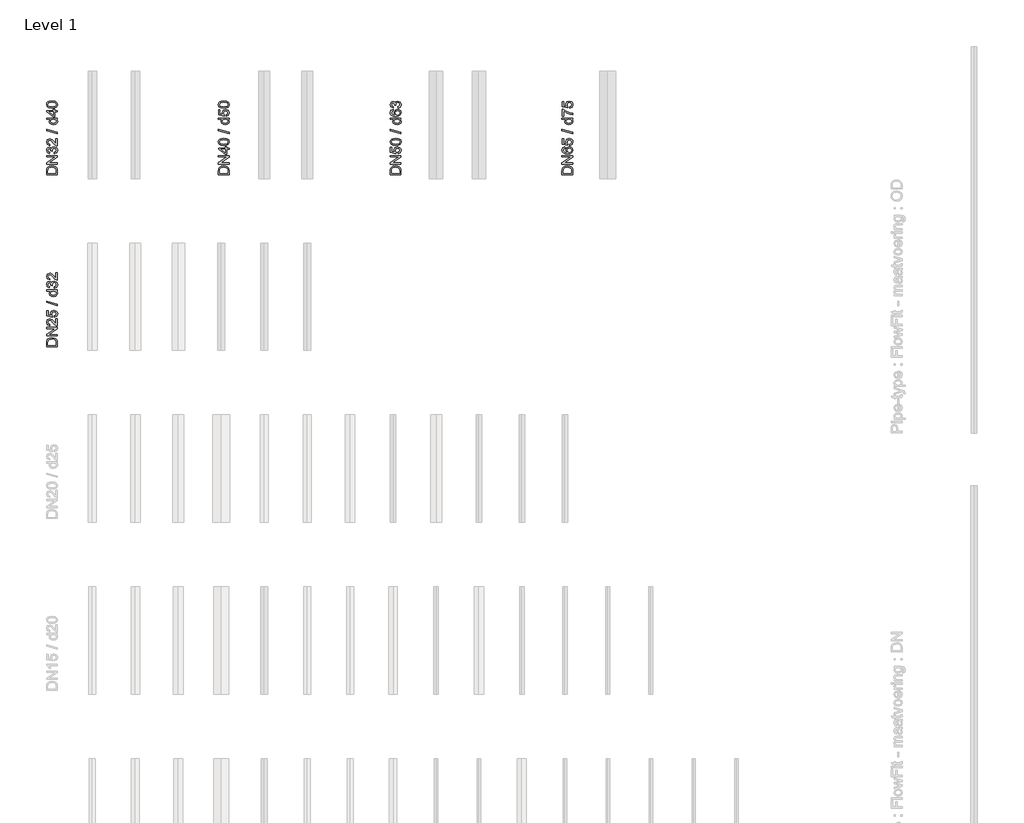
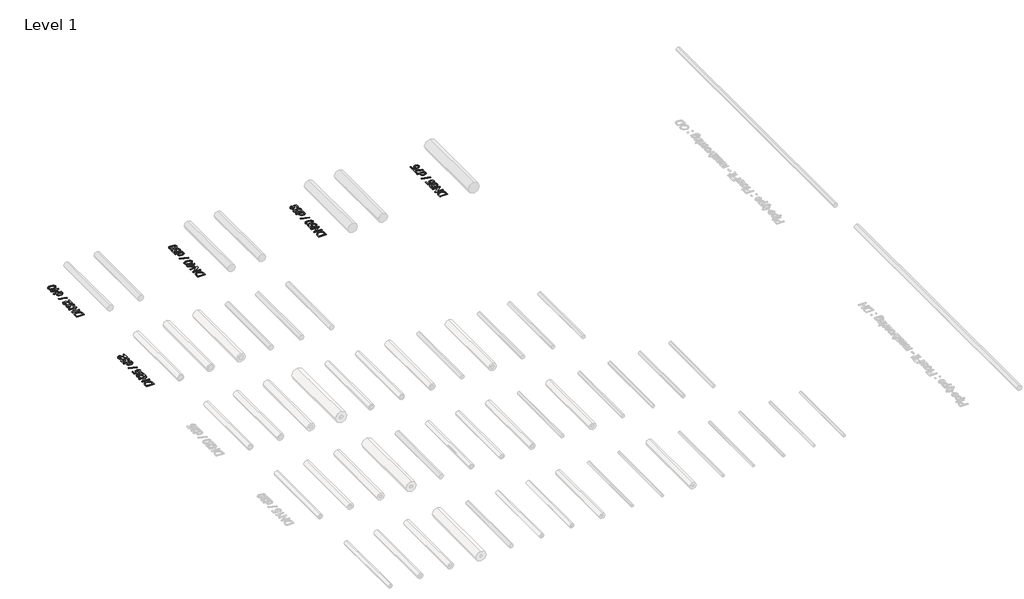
# One storey, part 10 of 11: 5 proxies.
"""IFC4 building model written with IfcOpenShell, lengths in millimetres."""

import ifcopenshell
import ifcopenshell.guid

model = None  # the IFC model being written
_history = None  # IfcOwnerHistory: only IFC2X3 demands one
_inside = {}  # id of a spatial element -> (the spatial element, [elements in it])
_under = {}  # id of a project, library or spatial element -> (it, [spatial elements below it])
_declared = {}  # id of a project -> (the project, [libraries it declares])
_typed = {}  # id of a type object -> (the type object, [elements of that type])
_made_of = {}  # id of a material, layer set ... -> (it, [elements and type objects made of it])


def new_model(schema):
    """Start an empty IFC model of exactly this schema.

    Asked for "IFC4X3", IfcOpenShell would pick the latest addendum, in which some entities
    have other attributes; the version numbers below select the first issue.
    IFC2X3 requires an IfcOwnerHistory on every rooted entity: one is made here for all.
    """
    global model, _history
    if schema == "IFC4X3":
        model = ifcopenshell.file(schema_version=(4, 3, 0, 0))
    else:
        model = ifcopenshell.file(schema=schema)
    _inside.clear()
    _under.clear()
    _declared.clear()
    _typed.clear()
    _made_of.clear()
    _history = None
    if model.schema == "IFC2X3":
        org = make("IfcOrganization", Name="unknown")
        user = make(
            "IfcPersonAndOrganization",
            ThePerson=make("IfcPerson", FamilyName="unknown"),
            TheOrganization=org,
        )
        app = make(
            "IfcApplication",
            ApplicationDeveloper=org,
            Version="unknown",
            ApplicationFullName="unknown",
            ApplicationIdentifier="unknown",
        )
        _history = make(
            "IfcOwnerHistory",
            OwningUser=user,
            OwningApplication=app,
            ChangeAction="ADDED",
            CreationDate=0,
        )
    return model


def make(cls, **values):
    """One entity of the class cls with the attributes given. An attribute that is None is left unset."""
    return model.create_entity(
        cls, **{name: value for name, value in values.items() if value is not None}
    )


def rooted(cls, **values):
    """An entity with a GlobalId (a new one), such as an element, a storey or a relation."""
    return make(cls, GlobalId=ifcopenshell.guid.new(), OwnerHistory=_history, **values)


def si_unit(unit_type, name, prefix=None):
    """IfcSIUnit, for example si_unit("LENGTHUNIT", "METRE", prefix="MILLI")."""
    return make("IfcSIUnit", UnitType=unit_type, Prefix=prefix, Name=name)


def assignment(units):
    """IfcUnitAssignment: the units of a project."""
    return None if units is None else make("IfcUnitAssignment", Units=units)


def point(xyz):
    """IfcCartesianPoint."""
    return None if xyz is None else make("IfcCartesianPoint", Coordinates=xyz)


def direction(xyz):
    """IfcDirection."""
    return None if xyz is None else make("IfcDirection", DirectionRatios=xyz)


def frame(location, z_axis=None, x_axis=None):
    """IfcAxis2Placement3D, a coordinate frame: its origin and axes. An axis left out is left unset."""
    return make(
        "IfcAxis2Placement3D",
        Location=point(location),
        Axis=direction(z_axis),
        RefDirection=direction(x_axis),
    )


def origin():
    """The frame at (0, 0, 0) with its axes left unset."""
    return frame((0.0, 0.0, 0.0))


def origin_with_axes():
    """The frame at (0, 0, 0) with the z axis (0, 0, 1) and the x axis (1, 0, 0) written out."""
    return frame((0.0, 0.0, 0.0), z_axis=(0.0, 0.0, 1.0), x_axis=(1.0, 0.0, 0.0))


def place(relative_to, where):
    """IfcLocalPlacement: puts the frame where relative to a parent placement (None: the world)."""
    return make(
        "IfcLocalPlacement", PlacementRelTo=relative_to, RelativePlacement=where
    )


def context(
    kind, dimensions, precision=None, world=None, true_north=None, identifier=None
):
    """IfcGeometricRepresentationContext, for example the 3D "Model" context."""
    return make(
        "IfcGeometricRepresentationContext",
        ContextIdentifier=identifier,
        ContextType=kind,
        CoordinateSpaceDimension=dimensions,
        Precision=precision,
        WorldCoordinateSystem=world,
        TrueNorth=true_north,
    )


def project(units=None, contexts=None):
    """IfcProject with its units and contexts."""
    return rooted(
        "IfcProject",
        Name="project",
        RepresentationContexts=contexts,
        UnitsInContext=assignment(units),
    )


def spatial(cls, under=None, at=None, **own):
    """A site, building, storey or space (cls), placed at a placement, below another one or the project."""
    s = rooted(cls, ObjectPlacement=at, **own)
    if under is not None:
        _under.setdefault(under.id(), (under, []))[1].append(s)
    return s


def polyline(points):
    """IfcPolyline through the points."""
    return make("IfcPolyline", Points=[point(p) for p in points])


def outline(outer, holes=None, kind="AREA"):
    """IfcArbitraryClosedProfileDef: a profile drawn as a closed curve; with holes, ...WithVoids."""
    if holes is None:
        return make("IfcArbitraryClosedProfileDef", ProfileType=kind, OuterCurve=outer)
    return make(
        "IfcArbitraryProfileDefWithVoids",
        ProfileType=kind,
        OuterCurve=outer,
        InnerCurves=holes,
    )


def extrude(swept, where, along, depth):
    """IfcExtrudedAreaSolid: the profile swept, set in the frame where, extruded along a direction by depth."""
    return make(
        "IfcExtrudedAreaSolid",
        SweptArea=swept,
        Position=where,
        ExtrudedDirection=direction(along),
        Depth=depth,
    )


def shape(context_of_items, identifier, shape_type, items):
    """IfcShapeRepresentation: the items that make up one representation, for example the "Body"."""
    return make(
        "IfcShapeRepresentation",
        ContextOfItems=context_of_items,
        RepresentationIdentifier=identifier,
        RepresentationType=shape_type,
        Items=items,
    )


def made_of(thing, what):
    """Note that an element or type object is made of a material, layer set ...; save() writes the relation."""
    if what is not None:
        _made_of.setdefault(what.id(), (what, []))[1].append(thing)
    return thing


def element(
    cls,
    number,
    at=None,
    inside=None,
    cuts=None,
    type_object=None,
    material=None,
    context=None,
    identifier="Body",
    shape_type=None,
    held_by="IfcProductDefinitionShape",
    body=None,
    shapes=None,
    **own,
):
    """One element of the class cls, such as IfcWall. Its Tag is "e" and its number.

    at: its placement. inside: the storey or other place that contains it. cuts: it is an
    opening in that element (IfcRelVoidsElement). A single representation is given by context,
    identifier, shape_type and body (its items); several are given by shapes. held_by: the class
    of the entity that holds the representations. save() writes the other relations.
    """
    e = rooted(cls, Tag="e%d" % number, ObjectPlacement=at, **own)
    if body is not None:
        shapes = [shape(context, identifier, shape_type, body)]
    if shapes is not None:
        e.Representation = make(held_by, Representations=shapes)
    if inside is not None:
        _inside.setdefault(inside.id(), (inside, []))[1].append(e)
    if cuts is not None:
        rooted(
            "IfcRelVoidsElement", RelatingBuildingElement=cuts, RelatedOpeningElement=e
        )
    if type_object is not None:
        _typed.setdefault(type_object.id(), (type_object, []))[1].append(e)
    return made_of(e, material)


def aggregate(whole, parts):
    """IfcRelAggregates: a whole, such as a stair, and the parts it consists of."""
    return rooted("IfcRelAggregates", RelatingObject=whole, RelatedObjects=parts)


def save(model, path):
    """Write the relations noted so far, then the file.

    IfcRelAggregates (storeys below a building ...), IfcRelContainedInSpatialStructure (elements
    in a storey), IfcRelDefinesByType, IfcRelAssociatesMaterial and IfcRelDeclares: one each for
    every whole, place, type object, material and project.
    """
    for whole, parts in _under.values():
        aggregate(whole, parts)
    for where, things in _inside.values():
        rooted(
            "IfcRelContainedInSpatialStructure",
            RelatedElements=things,
            RelatingStructure=where,
        )
    for kind, things in _typed.values():
        rooted("IfcRelDefinesByType", RelatedObjects=things, RelatingType=kind)
    for what, things in _made_of.values():
        rooted("IfcRelAssociatesMaterial", RelatedObjects=things, RelatingMaterial=what)
    for by, libraries in _declared.values():
        rooted("IfcRelDeclares", RelatingContext=by, RelatedDefinitions=libraries)
    model.write(path)


model = new_model("IFC4")

# Units and contexts
model_context = context("Model", 3, world=origin())
ifc_project = project(units=[si_unit("LENGTHUNIT", "METRE", prefix="MILLI")], contexts=[model_context])

# Site, building, storey
site = spatial("IfcSite", under=ifc_project)
building = spatial("IfcBuilding", under=site)
storey = spatial("IfcBuildingStorey", under=building, Name="Level 1", Elevation=0.0)

# Proxies
placement = place(None, origin())
element("IfcBuildingElementProxy", 1, Name="S", ObjectType="S", at=placement, inside=storey, context=model_context, shape_type="SweptSolid", body=[
    extrude(outline(polyline([(171.7931305, 6508.4123634), (121.5649754, 6508.4123634), (121.5649754, 6525.7396054), (122.2884767, 6534.7036634), (125.8814575, 6542.0858287), (134.4653707, 6548.0332543), (146.4092728, 6550.0075544), (156.5444218, 6548.6709164), (163.8591421, 6545.2373512), (168.4147475, 6540.6510889), (170.9347392, 6534.6484811), (171.7931305, 6526.5734713), (171.7931305, 6508.4123634)]), holes=[polyline([(165.5146111, 6514.6908828), (165.5146111, 6525.8009191), (164.6071689, 6533.8820602), (162.0442576, 6538.5418988), (155.8086578, 6542.3617402), (146.311171, 6543.729035), (134.4163198, 6541.0496278), (128.8490389, 6534.5319851), (127.8434948, 6525.6292408), (127.8434948, 6514.6908828), (165.5146111, 6514.6908828)])]), origin_with_axes(), (0.0, 0.0, 1.0), 3.0),
    extrude(outline(polyline([(171.7931305, 6558.6405185), (121.5649754, 6558.6405185), (121.5649754, 6565.3604963), (161.3575446, 6591.6027453), (121.5649754, 6591.6027453), (121.5649754, 6597.8812647), (171.7931305, 6597.8812647), (171.7931305, 6591.1612869), (131.9882986, 6564.9190379), (171.7931305, 6564.9190379), (171.7931305, 6558.6405185)])), origin_with_axes(), (0.0, 0.0, 1.0), 3.0),
    extrude(outline(polyline([(165.5146111, 6638.6916407), (171.7931305, 6638.6916407), (171.7931305, 6605.7294139), (167.4643857, 6606.4038642), (160.7995902, 6610.2175742), (153.5216581, 6618.0779862), (143.0615467, 6628.9182423), (135.9491614, 6631.6283064), (130.1918082, 6629.0715265), (127.8434948, 6622.3944683), (130.1366259, 6615.4353672), (136.476459, 6612.7927482), (135.691644, 6606.5142288), (125.1824817, 6611.3273516), (121.5649754, 6622.5293583), (125.5871519, 6633.7681533), (135.5690167, 6637.9068257), (141.5225737, 6636.790917), (147.6784657, 6633.0814402), (156.280773, 6624.0867255), (162.3201691, 6616.8639756), (165.5146111, 6614.0312843), (165.5146111, 6638.6916407)])), origin_with_axes(), (0.0, 0.0, 1.0), 3.0),
    extrude(outline(polyline([(158.4512768, 6644.97016), (157.6664619, 6651.2486794), (164.1350536, 6654.4124646), (166.299426, 6660.9730268), (163.288925, 6668.8457015), (155.2997544, 6671.6538674), (147.8440126, 6669.0235112), (145.1094231, 6661.0711287), (146.2008064, 6655.5590301), (149.0334977, 6652.0334944), (148.2486828, 6645.754975), (122.3497903, 6651.2486794), (122.3497903, 6675.577942), (128.6283097, 6675.577942), (128.6283097, 6656.325451), (142.4606727, 6653.6399124), (138.8309037, 6662.8246995), (143.3313268, 6673.5607224), (154.9073469, 6677.9323868), (166.5569434, 6673.9960495), (171.0726949, 6668.3429295), (172.5779454, 6660.9485014), (168.7090531, 6649.8691219), (158.4512768, 6644.97016)])), origin_with_axes(), (0.0, 0.0, 1.0), 3.0),
    extrude(outline(polyline([(171.7931305, 6699.9072047), (121.5649754, 6714.0338733), (121.5649754, 6719.699256), (171.7931305, 6705.5725874), (171.7931305, 6699.9072047)])), origin_with_axes(), (0.0, 0.0, 1.0), 3.0),
    extrude(outline(polyline([(171.7931305, 6766.6164731), (165.8702304, 6766.6164731), (170.9010167, 6762.4624723), (172.5779454, 6756.7204474), (170.1499242, 6748.9458746), (163.3747642, 6743.4521702), (153.386768, 6741.5023956), (143.3926405, 6743.298886), (136.5132472, 6748.6822259), (134.1220142, 6756.695922), (135.8326655, 6762.483932), (140.2779062, 6766.6164731), (121.5649754, 6766.6164731), (121.5649754, 6772.8949925), (171.7931305, 6772.8949925), (171.7931305, 6766.6164731)]), holes=[polyline([(153.3622425, 6747.780915), (163.0804586, 6750.6136063), (166.299426, 6757.2967959), (163.2276114, 6763.9002777), (153.8404891, 6766.6164731), (143.6501579, 6763.8512268), (140.4005336, 6757.0392785), (143.5213992, 6750.4296653), (153.3622425, 6747.780915)])]), origin_with_axes(), (0.0, 0.0, 1.0), 3.0),
    extrude(outline(polyline([(158.4512768, 6780.7431417), (157.6664619, 6787.0216611), (164.2760751, 6790.4858832), (166.299426, 6796.9667377), (163.5157856, 6804.5941578), (156.6241296, 6807.4268491), (150.1310123, 6804.6186832), (147.5619697, 6797.4817725), (148.2486828, 6793.0794513), (141.9701634, 6793.7784271), (140.241118, 6801.9086192), (134.6983626, 6805.0724043), (129.787138, 6802.7792732), (127.8434948, 6796.8686359), (129.8055321, 6790.8844221), (135.691644, 6787.806476), (134.9068291, 6781.5279567), (125.0598544, 6786.6660419), (121.5649754, 6796.6479067), (123.2878894, 6804.2201444), (127.996779, 6809.5176451), (134.3304807, 6811.3509237), (140.1184907, 6809.6096156), (144.2755573, 6804.4592677), (148.5675139, 6811.3018728), (156.7344942, 6813.7053685), (167.9671577, 6808.8983771), (172.5779454, 6796.7460085), (168.6416081, 6785.7340741), (158.4512768, 6780.7431417)])), origin_with_axes(), (0.0, 0.0, 1.0), 3.0),
    extrude(outline(polyline([(165.5146111, 6851.3764848), (171.7931305, 6851.3764848), (171.7931305, 6818.414258), (167.4643857, 6819.0887084), (160.7995902, 6822.9024184), (153.5216581, 6830.7628303), (143.0615467, 6841.6030865), (135.9491614, 6844.3131505), (130.1918082, 6841.7563706), (127.8434948, 6835.0793124), (130.1366259, 6828.1202113), (136.476459, 6825.4775923), (135.691644, 6819.199073), (125.1824817, 6824.0121957), (121.5649754, 6835.2142025), (125.5871519, 6846.4529974), (135.5690167, 6850.5916699), (141.5225737, 6849.4757612), (147.6784657, 6845.7662844), (156.280773, 6836.7715696), (162.3201691, 6829.5488198), (165.5146111, 6826.7161284), (165.5146111, 6851.3764848)])), origin_with_axes(), (0.0, 0.0, 1.0), 3.0),
])
element("IfcBuildingElementProxy", 2, Name="S", ObjectType="S", at=placement, inside=storey, context=model_context, shape_type="SweptSolid", body=[
    extrude(outline(polyline([(171.7931305, 7308.4123634), (121.5649754, 7308.4123634), (121.5649754, 7325.7396054), (122.2884767, 7334.7036634), (125.8814575, 7342.0858287), (134.4653707, 7348.0332543), (146.4092728, 7350.0075544), (156.5444218, 7348.6709164), (163.8591421, 7345.2373512), (168.4147475, 7340.6510889), (170.9347392, 7334.6484811), (171.7931305, 7326.5734713), (171.7931305, 7308.4123634)]), holes=[polyline([(165.5146111, 7314.6908828), (165.5146111, 7325.8009191), (164.6071689, 7333.8820602), (162.0442576, 7338.5418988), (155.8086578, 7342.3617402), (146.311171, 7343.729035), (134.4163198, 7341.0496278), (128.8490389, 7334.5319851), (127.8434948, 7325.6292408), (127.8434948, 7314.6908828), (165.5146111, 7314.6908828)])]), origin_with_axes(), (0.0, 0.0, 1.0), 3.0),
    extrude(outline(polyline([(171.7931305, 7358.6405185), (121.5649754, 7358.6405185), (121.5649754, 7365.3604963), (161.3575446, 7391.6027453), (121.5649754, 7391.6027453), (121.5649754, 7397.8812647), (171.7931305, 7397.8812647), (171.7931305, 7391.1612869), (131.9882986, 7364.9190379), (171.7931305, 7364.9190379), (171.7931305, 7358.6405185)])), origin_with_axes(), (0.0, 0.0, 1.0), 3.0),
    extrude(outline(polyline([(158.4512768, 7406.5142288), (157.6664619, 7412.7927482), (164.2760751, 7416.2569703), (166.299426, 7422.7378248), (163.5157856, 7430.3652448), (156.6241296, 7433.1979362), (150.1310123, 7430.3897703), (147.5619697, 7423.2528596), (148.2486828, 7418.8505384), (141.9701634, 7419.5495142), (140.241118, 7427.6797063), (134.6983626, 7430.8434914), (129.787138, 7428.5503603), (127.8434948, 7422.6397229), (129.8055321, 7416.6555091), (135.691644, 7413.5775631), (134.9068291, 7407.2990437), (125.0598544, 7412.4371289), (121.5649754, 7422.4189937), (123.2878894, 7429.9912315), (127.996779, 7435.2887322), (134.3304807, 7437.1220108), (140.1184907, 7435.3807027), (144.2755573, 7430.2303548), (148.5675139, 7437.0729599), (156.7344942, 7439.4764556), (167.9671577, 7434.6694642), (172.5779454, 7422.5170956), (168.6416081, 7411.5051612), (158.4512768, 7406.5142288)])), origin_with_axes(), (0.0, 0.0, 1.0), 3.0),
    extrude(outline(polyline([(165.5146111, 7477.1475719), (171.7931305, 7477.1475719), (171.7931305, 7444.1853451), (167.4643857, 7444.8597954), (160.7995902, 7448.6735055), (153.5216581, 7456.5339174), (143.0615467, 7467.3741736), (135.9491614, 7470.0842376), (130.1918082, 7467.5274577), (127.8434948, 7460.8503995), (130.1366259, 7453.8912984), (136.476459, 7451.2486794), (135.691644, 7444.97016), (125.1824817, 7449.7832828), (121.5649754, 7460.9852896), (125.5871519, 7472.2240845), (135.5690167, 7476.362757), (141.5225737, 7475.2468482), (147.6784657, 7471.5373715), (156.280773, 7462.5426567), (162.3201691, 7455.3199068), (165.5146111, 7452.4872155), (165.5146111, 7477.1475719)])), origin_with_axes(), (0.0, 0.0, 1.0), 3.0),
    extrude(outline(polyline([(171.7931305, 7499.9072047), (121.5649754, 7514.0338733), (121.5649754, 7519.699256), (171.7931305, 7505.5725874), (171.7931305, 7499.9072047)])), origin_with_axes(), (0.0, 0.0, 1.0), 3.0),
    extrude(outline(polyline([(171.7931305, 7566.6164731), (165.8702304, 7566.6164731), (170.9010167, 7562.4624723), (172.5779454, 7556.7204474), (170.1499242, 7548.9458746), (163.3747642, 7543.4521702), (153.386768, 7541.5023956), (143.3926405, 7543.298886), (136.5132472, 7548.6822259), (134.1220142, 7556.695922), (135.8326655, 7562.483932), (140.2779062, 7566.6164731), (121.5649754, 7566.6164731), (121.5649754, 7572.8949925), (171.7931305, 7572.8949925), (171.7931305, 7566.6164731)]), holes=[polyline([(153.3622425, 7547.780915), (163.0804586, 7550.6136063), (166.299426, 7557.2967959), (163.2276114, 7563.9002777), (153.8404891, 7566.6164731), (143.6501579, 7563.8512268), (140.4005336, 7557.0392785), (143.5213992, 7550.4296653), (153.3622425, 7547.780915)])]), origin_with_axes(), (0.0, 0.0, 1.0), 3.0),
    extrude(outline(polyline([(171.7931305, 7601.1483297), (160.0209066, 7601.1483297), (160.0209066, 7578.388697), (153.7423873, 7578.388697), (122.3497903, 7602.7179596), (122.3497903, 7607.4268491), (153.7423873, 7607.4268491), (153.7423873, 7613.7053685), (160.0209066, 7613.7053685), (160.0209066, 7607.4268491), (171.7931305, 7607.4268491), (171.7931305, 7601.1483297)]), holes=[polyline([(153.7423873, 7601.1483297), (134.3427434, 7601.1483297), (153.7423873, 7586.1142189), (153.7423873, 7601.1483297)])]), origin_with_axes(), (0.0, 0.0, 1.0), 3.0),
    extrude(outline(polyline([(147.0837231, 7619.199073), (132.6320921, 7621.0446143), (124.2995649, 7626.526056), (121.5649754, 7635.6801863), (123.1836562, 7643.0133008), (127.8496262, 7648.0778096), (135.2808425, 7651.0208655), (147.0837231, 7652.1612997), (161.4740405, 7650.3341525), (169.8249618, 7644.8711049), (172.5779454, 7635.6801863), (167.7954795, 7624.2022681), (159.3004711, 7620.4498717), (147.0837231, 7619.199073)]), holes=[polyline([(147.0714604, 7625.4775923), (162.6635256, 7628.4206483), (166.299426, 7635.6801863), (162.6512629, 7642.9397244), (147.0714604, 7645.8827803), (131.6572048, 7643.0378262), (127.8434948, 7635.6066099), (131.2034837, 7628.5187502), (147.0714604, 7625.4775923)])]), origin_with_axes(), (0.0, 0.0, 1.0), 3.0),
])
element("IfcBuildingElementProxy", 3, Name="S", ObjectType="S", at=placement, inside=storey, context=model_context, shape_type="SweptSolid", body=[
    extrude(outline(polyline([(971.7931305, 7308.4123634), (921.5649754, 7308.4123634), (921.5649754, 7325.7396054), (922.2884767, 7334.7036634), (925.8814575, 7342.0858287), (934.4653707, 7348.0332543), (946.4092728, 7350.0075544), (956.5444218, 7348.6709164), (963.8591421, 7345.2373512), (968.4147475, 7340.6510889), (970.9347392, 7334.6484811), (971.7931305, 7326.5734713), (971.7931305, 7308.4123634)]), holes=[polyline([(965.5146111, 7314.6908828), (965.5146111, 7325.8009191), (964.6071689, 7333.8820602), (962.0442576, 7338.5418988), (955.8086578, 7342.3617402), (946.311171, 7343.729035), (934.4163198, 7341.0496278), (928.8490389, 7334.5319851), (927.8434948, 7325.6292408), (927.8434948, 7314.6908828), (965.5146111, 7314.6908828)])]), origin_with_axes(), (0.0, 0.0, 1.0), 3.0),
    extrude(outline(polyline([(971.7931305, 7358.6405185), (921.5649754, 7358.6405185), (921.5649754, 7365.3604963), (961.3575446, 7391.6027453), (921.5649754, 7391.6027453), (921.5649754, 7397.8812647), (971.7931305, 7397.8812647), (971.7931305, 7391.1612869), (931.9882986, 7364.9190379), (971.7931305, 7364.9190379), (971.7931305, 7358.6405185)])), origin_with_axes(), (0.0, 0.0, 1.0), 3.0),
    extrude(outline(polyline([(971.7931305, 7426.9194168), (960.0209066, 7426.9194168), (960.0209066, 7404.159784), (953.7423873, 7404.159784), (922.3497903, 7428.4890467), (922.3497903, 7433.1979362), (953.7423873, 7433.1979362), (953.7423873, 7439.4764556), (960.0209066, 7439.4764556), (960.0209066, 7433.1979362), (971.7931305, 7433.1979362), (971.7931305, 7426.9194168)]), holes=[polyline([(953.7423873, 7426.9194168), (934.3427434, 7426.9194168), (953.7423873, 7411.8853059), (953.7423873, 7426.9194168)])]), origin_with_axes(), (0.0, 0.0, 1.0), 3.0),
    extrude(outline(polyline([(947.0837231, 7444.97016), (932.6320921, 7446.8157014), (924.2995649, 7452.2971431), (921.5649754, 7461.4512734), (923.1836562, 7468.7843879), (927.8496262, 7473.8488967), (935.2808425, 7476.7919526), (947.0837231, 7477.9323868), (961.4740405, 7476.1052396), (969.8249618, 7470.6421919), (972.5779454, 7461.4512734), (967.7954795, 7449.9733552), (959.3004711, 7446.2209588), (947.0837231, 7444.97016)]), holes=[polyline([(947.0714604, 7451.2486794), (962.6635256, 7454.1917354), (966.299426, 7461.4512734), (962.6512629, 7468.7108115), (947.0714604, 7471.6538674), (931.6572048, 7468.8089133), (927.8434948, 7461.377697), (931.2034837, 7454.2898373), (947.0714604, 7451.2486794)])]), origin_with_axes(), (0.0, 0.0, 1.0), 3.0),
    extrude(outline(polyline([(971.7931305, 7499.9072047), (921.5649754, 7514.0338733), (921.5649754, 7519.699256), (971.7931305, 7505.5725874), (971.7931305, 7499.9072047)])), origin_with_axes(), (0.0, 0.0, 1.0), 3.0),
    extrude(outline(polyline([(971.7931305, 7566.6164731), (965.8702304, 7566.6164731), (970.9010167, 7562.4624723), (972.5779454, 7556.7204474), (970.1499242, 7548.9458746), (963.3747642, 7543.4521702), (953.386768, 7541.5023956), (943.3926405, 7543.298886), (936.5132472, 7548.6822259), (934.1220142, 7556.695922), (935.8326655, 7562.483932), (940.2779062, 7566.6164731), (921.5649754, 7566.6164731), (921.5649754, 7572.8949925), (971.7931305, 7572.8949925), (971.7931305, 7566.6164731)]), holes=[polyline([(953.3622425, 7547.780915), (963.0804586, 7550.6136063), (966.299426, 7557.2967959), (963.2276114, 7563.9002777), (953.8404891, 7566.6164731), (943.6501579, 7563.8512268), (940.4005336, 7557.0392785), (943.5213992, 7550.4296653), (953.3622425, 7547.780915)])]), origin_with_axes(), (0.0, 0.0, 1.0), 3.0),
    extrude(outline(polyline([(958.4512768, 7580.7431417), (957.6664619, 7587.0216611), (964.1350536, 7590.1854463), (966.299426, 7596.7460085), (963.288925, 7604.6186832), (955.2997544, 7607.4268491), (947.8440126, 7604.7964928), (945.1094231, 7596.8441104), (946.2008064, 7591.3320118), (949.0334977, 7587.806476), (948.2486828, 7581.5279567), (922.3497903, 7587.0216611), (922.3497903, 7611.3509237), (928.6283097, 7611.3509237), (928.6283097, 7592.0984326), (942.4606727, 7589.4128941), (938.8309037, 7598.5976812), (943.3313268, 7609.3337041), (954.9073469, 7613.7053685), (966.5569434, 7609.7690312), (971.0726949, 7604.1159112), (972.5779454, 7596.7214831), (968.7090531, 7585.6421036), (958.4512768, 7580.7431417)])), origin_with_axes(), (0.0, 0.0, 1.0), 3.0),
    extrude(outline(polyline([(947.0837231, 7619.199073), (932.6320921, 7621.0446143), (924.2995649, 7626.526056), (921.5649754, 7635.6801863), (923.1836562, 7643.0133008), (927.8496262, 7648.0778096), (935.2808425, 7651.0208655), (947.0837231, 7652.1612997), (961.4740405, 7650.3341525), (969.8249618, 7644.8711049), (972.5779454, 7635.6801863), (967.7954795, 7624.2022681), (959.3004711, 7620.4498717), (947.0837231, 7619.199073)]), holes=[polyline([(947.0714604, 7625.4775923), (962.6635256, 7628.4206483), (966.299426, 7635.6801863), (962.6512629, 7642.9397244), (947.0714604, 7645.8827803), (931.6572048, 7643.0378262), (927.8434948, 7635.6066099), (931.2034837, 7628.5187502), (947.0714604, 7625.4775923)])]), origin_with_axes(), (0.0, 0.0, 1.0), 3.0),
])
element("IfcBuildingElementProxy", 4, Name="S", ObjectType="S", at=placement, inside=storey, context=model_context, shape_type="SweptSolid", body=[
    extrude(outline(polyline([(1771.7931305, 7308.4123634), (1721.5649754, 7308.4123634), (1721.5649754, 7325.7396054), (1722.2884767, 7334.7036634), (1725.8814575, 7342.0858287), (1734.4653707, 7348.0332543), (1746.4092728, 7350.0075544), (1756.5444218, 7348.6709164), (1763.8591421, 7345.2373512), (1768.4147475, 7340.6510889), (1770.9347392, 7334.6484811), (1771.7931305, 7326.5734713), (1771.7931305, 7308.4123634)]), holes=[polyline([(1765.5146111, 7314.6908828), (1765.5146111, 7325.8009191), (1764.6071689, 7333.8820602), (1762.0442576, 7338.5418988), (1755.8086578, 7342.3617402), (1746.311171, 7343.729035), (1734.4163198, 7341.0496278), (1728.8490389, 7334.5319851), (1727.8434948, 7325.6292408), (1727.8434948, 7314.6908828), (1765.5146111, 7314.6908828)])]), origin_with_axes(), (0.0, 0.0, 1.0), 3.0),
    extrude(outline(polyline([(1771.7931305, 7358.6405185), (1721.5649754, 7358.6405185), (1721.5649754, 7365.3604963), (1761.3575446, 7391.6027453), (1721.5649754, 7391.6027453), (1721.5649754, 7397.8812647), (1771.7931305, 7397.8812647), (1771.7931305, 7391.1612869), (1731.9882986, 7364.9190379), (1771.7931305, 7364.9190379), (1771.7931305, 7358.6405185)])), origin_with_axes(), (0.0, 0.0, 1.0), 3.0),
    extrude(outline(polyline([(1758.4512768, 7406.5142288), (1757.6664619, 7412.7927482), (1764.1350536, 7415.9565334), (1766.299426, 7422.5170956), (1763.288925, 7430.3897703), (1755.2997544, 7433.1979362), (1747.8440126, 7430.5675799), (1745.1094231, 7422.6151975), (1746.2008064, 7417.1030989), (1749.0334977, 7413.5775631), (1748.2486828, 7407.2990437), (1722.3497903, 7412.7927482), (1722.3497903, 7437.1220108), (1728.6283097, 7437.1220108), (1728.6283097, 7417.8695197), (1742.4606727, 7415.1839812), (1738.8309037, 7424.3687683), (1743.3313268, 7435.1047912), (1754.9073469, 7439.4764556), (1766.5569434, 7435.5401182), (1771.0726949, 7429.8869982), (1772.5779454, 7422.4925701), (1768.7090531, 7411.4131907), (1758.4512768, 7406.5142288)])), origin_with_axes(), (0.0, 0.0, 1.0), 3.0),
    extrude(outline(polyline([(1747.0837231, 7444.97016), (1732.6320921, 7446.8157014), (1724.2995649, 7452.2971431), (1721.5649754, 7461.4512734), (1723.1836562, 7468.7843879), (1727.8496262, 7473.8488967), (1735.2808425, 7476.7919526), (1747.0837231, 7477.9323868), (1761.4740405, 7476.1052396), (1769.8249618, 7470.6421919), (1772.5779454, 7461.4512734), (1767.7954795, 7449.9733552), (1759.3004711, 7446.2209588), (1747.0837231, 7444.97016)]), holes=[polyline([(1747.0714604, 7451.2486794), (1762.6635256, 7454.1917354), (1766.299426, 7461.4512734), (1762.6512629, 7468.7108115), (1747.0714604, 7471.6538674), (1731.6572048, 7468.8089133), (1727.8434948, 7461.377697), (1731.2034837, 7454.2898373), (1747.0714604, 7451.2486794)])]), origin_with_axes(), (0.0, 0.0, 1.0), 3.0),
    extrude(outline(polyline([(1771.7931305, 7499.9072047), (1721.5649754, 7514.0338733), (1721.5649754, 7519.699256), (1771.7931305, 7505.5725874), (1771.7931305, 7499.9072047)])), origin_with_axes(), (0.0, 0.0, 1.0), 3.0),
    extrude(outline(polyline([(1771.7931305, 7566.6164731), (1765.8702304, 7566.6164731), (1770.9010167, 7562.4624723), (1772.5779454, 7556.7204474), (1770.1499242, 7548.9458746), (1763.3747642, 7543.4521702), (1753.386768, 7541.5023956), (1743.3926405, 7543.298886), (1736.5132472, 7548.6822259), (1734.1220142, 7556.695922), (1735.8326655, 7562.483932), (1740.2779062, 7566.6164731), (1721.5649754, 7566.6164731), (1721.5649754, 7572.8949925), (1771.7931305, 7572.8949925), (1771.7931305, 7566.6164731)]), holes=[polyline([(1753.3622425, 7547.780915), (1763.0804586, 7550.6136063), (1766.299426, 7557.2967959), (1763.2276114, 7563.9002777), (1753.8404891, 7566.6164731), (1743.6501579, 7563.8512268), (1740.4005336, 7557.0392785), (1743.5213992, 7550.4296653), (1753.3622425, 7547.780915)])]), origin_with_axes(), (0.0, 0.0, 1.0), 3.0),
    extrude(outline(polyline([(1734.9068291, 7612.9205536), (1735.691644, 7606.6420342), (1730.455457, 7604.263064), (1727.8434948, 7597.9722818), (1729.3640737, 7592.3068991), (1735.072376, 7588.0210739), (1746.26212, 7586.2368462), (1741.2527935, 7591.7734702), (1739.6157186, 7598.6344694), (1744.0916163, 7609.3030473), (1755.6553736, 7613.7053685), (1764.3189946, 7611.6329666), (1770.4503612, 7605.9307957), (1772.5779454, 7597.7025017), (1766.9370882, 7584.9063396), (1759.4690837, 7581.19533), (1748.3467847, 7579.9583268), (1735.8418625, 7581.3317529), (1727.2916718, 7585.4520313), (1722.9966495, 7591.0775601), (1721.5649754, 7598.3646893), (1725.1089053, 7608.2852404), (1734.9068291, 7612.9205536)]), holes=[polyline([(1755.5572718, 7586.2368462), (1760.9957939, 7587.6899801), (1764.944394, 7591.552741), (1766.299426, 7597.2119924), (1763.4912601, 7604.6125519), (1755.8638401, 7607.4268491), (1748.5613825, 7604.6493401), (1745.894238, 7596.954475), (1748.5613825, 7589.3577118), (1755.5572718, 7586.2368462)])]), origin_with_axes(), (0.0, 0.0, 1.0), 3.0),
    extrude(outline(polyline([(1758.4512768, 7619.199073), (1757.6664619, 7625.4775923), (1764.2760751, 7628.9418145), (1766.299426, 7635.4226689), (1763.5157856, 7643.050089), (1756.6241296, 7645.8827803), (1750.1310123, 7643.0746144), (1747.5619697, 7635.9377037), (1748.2486828, 7631.5353825), (1741.9701634, 7632.2343583), (1740.241118, 7640.3645504), (1734.6983626, 7643.5283356), (1729.787138, 7641.2352045), (1727.8434948, 7635.3245671), (1729.8055321, 7629.3403533), (1735.691644, 7626.2624073), (1734.9068291, 7619.9838879), (1725.0598544, 7625.1219731), (1721.5649754, 7635.1038379), (1723.2878894, 7642.6760756), (1727.996779, 7647.9735764), (1734.3304807, 7649.806855), (1740.1184907, 7648.0655468), (1744.2755573, 7642.9151989), (1748.5675139, 7649.757804), (1756.7344942, 7652.1612997), (1767.9671577, 7647.3543083), (1772.5779454, 7635.2019398), (1768.6416081, 7624.1900054), (1758.4512768, 7619.199073)])), origin_with_axes(), (0.0, 0.0, 1.0), 3.0),
])
element("IfcBuildingElementProxy", 5, Name="S", ObjectType="S", at=placement, inside=storey, context=model_context, shape_type="SweptSolid", body=[
    extrude(outline(polyline([(2571.7931305, 7308.4123634), (2521.5649754, 7308.4123634), (2521.5649754, 7325.7396054), (2522.2884767, 7334.7036634), (2525.8814575, 7342.0858287), (2534.4653707, 7348.0332543), (2546.4092728, 7350.0075544), (2556.5444218, 7348.6709164), (2563.8591421, 7345.2373512), (2568.4147475, 7340.6510889), (2570.9347392, 7334.6484811), (2571.7931305, 7326.5734713), (2571.7931305, 7308.4123634)]), holes=[polyline([(2565.5146111, 7314.6908828), (2565.5146111, 7325.8009191), (2564.6071689, 7333.8820602), (2562.0442576, 7338.5418988), (2555.8086578, 7342.3617402), (2546.311171, 7343.729035), (2534.4163198, 7341.0496278), (2528.8490389, 7334.5319851), (2527.8434948, 7325.6292408), (2527.8434948, 7314.6908828), (2565.5146111, 7314.6908828)])]), origin_with_axes(), (0.0, 0.0, 1.0), 3.0),
    extrude(outline(polyline([(2571.7931305, 7358.6405185), (2521.5649754, 7358.6405185), (2521.5649754, 7365.3604963), (2561.3575446, 7391.6027453), (2521.5649754, 7391.6027453), (2521.5649754, 7397.8812647), (2571.7931305, 7397.8812647), (2571.7931305, 7391.1612869), (2531.9882986, 7364.9190379), (2571.7931305, 7364.9190379), (2571.7931305, 7358.6405185)])), origin_with_axes(), (0.0, 0.0, 1.0), 3.0),
    extrude(outline(polyline([(2534.9068291, 7438.6916407), (2535.691644, 7432.4131213), (2530.455457, 7430.034151), (2527.8434948, 7423.7433689), (2529.3640737, 7418.0779862), (2535.072376, 7413.792161), (2546.26212, 7412.0079333), (2541.2527935, 7417.5445573), (2539.6157186, 7424.4055565), (2544.0916163, 7435.0741344), (2555.6553736, 7439.4764556), (2564.3189946, 7437.4040537), (2570.4503612, 7431.7018828), (2572.5779454, 7423.4735888), (2566.9370882, 7410.6774267), (2559.4690837, 7406.9664171), (2548.3467847, 7405.7294139), (2535.8418625, 7407.10284), (2527.2916718, 7411.2231184), (2522.9966495, 7416.8486472), (2521.5649754, 7424.1357764), (2525.1089053, 7434.0563275), (2534.9068291, 7438.6916407)]), holes=[polyline([(2555.5572718, 7412.0079333), (2560.9957939, 7413.4610672), (2564.944394, 7417.3238281), (2566.299426, 7422.9830795), (2563.4912601, 7430.3836389), (2555.8638401, 7433.1979362), (2548.5613825, 7430.4204271), (2545.894238, 7422.7255621), (2548.5613825, 7415.1287989), (2555.5572718, 7412.0079333)])]), origin_with_axes(), (0.0, 0.0, 1.0), 3.0),
    extrude(outline(polyline([(2558.4512768, 7444.97016), (2557.6664619, 7451.2486794), (2564.1350536, 7454.4124646), (2566.299426, 7460.9730268), (2563.288925, 7468.8457015), (2555.2997544, 7471.6538674), (2547.8440126, 7469.0235112), (2545.1094231, 7461.0711287), (2546.2008064, 7455.5590301), (2549.0334977, 7452.0334944), (2548.2486828, 7445.754975), (2522.3497903, 7451.2486794), (2522.3497903, 7475.577942), (2528.6283097, 7475.577942), (2528.6283097, 7456.325451), (2542.4606727, 7453.6399124), (2538.8309037, 7462.8246995), (2543.3313268, 7473.5607224), (2554.9073469, 7477.9323868), (2566.5569434, 7473.9960495), (2571.0726949, 7468.3429295), (2572.5779454, 7460.9485014), (2568.7090531, 7449.8691219), (2558.4512768, 7444.97016)])), origin_with_axes(), (0.0, 0.0, 1.0), 3.0),
    extrude(outline(polyline([(2571.7931305, 7499.9072047), (2521.5649754, 7514.0338733), (2521.5649754, 7519.699256), (2571.7931305, 7505.5725874), (2571.7931305, 7499.9072047)])), origin_with_axes(), (0.0, 0.0, 1.0), 3.0),
    extrude(outline(polyline([(2571.7931305, 7566.6164731), (2565.8702304, 7566.6164731), (2570.9010167, 7562.4624723), (2572.5779454, 7556.7204474), (2570.1499242, 7548.9458746), (2563.3747642, 7543.4521702), (2553.386768, 7541.5023956), (2543.3926405, 7543.298886), (2536.5132472, 7548.6822259), (2534.1220142, 7556.695922), (2535.8326655, 7562.483932), (2540.2779062, 7566.6164731), (2521.5649754, 7566.6164731), (2521.5649754, 7572.8949925), (2571.7931305, 7572.8949925), (2571.7931305, 7566.6164731)]), holes=[polyline([(2553.3622425, 7547.780915), (2563.0804586, 7550.6136063), (2566.299426, 7557.2967959), (2563.2276114, 7563.9002777), (2553.8404891, 7566.6164731), (2543.6501579, 7563.8512268), (2540.4005336, 7557.0392785), (2543.5213992, 7550.4296653), (2553.3622425, 7547.780915)])]), origin_with_axes(), (0.0, 0.0, 1.0), 3.0),
    extrude(outline(polyline([(2528.6283097, 7580.7431417), (2522.3497903, 7580.7431417), (2522.3497903, 7613.7053685), (2527.4265619, 7613.7053685), (2540.9339625, 7604.3550345), (2558.1447085, 7597.1997296), (2571.7931305, 7594.8698103), (2571.7931305, 7588.591291), (2557.6296737, 7591.0867572), (2541.6206755, 7597.9354936), (2528.6283097, 7607.4268491), (2528.6283097, 7580.7431417)])), origin_with_axes(), (0.0, 0.0, 1.0), 3.0),
    extrude(outline(polyline([(2558.4512768, 7619.199073), (2557.6664619, 7625.4775923), (2564.1350536, 7628.6413775), (2566.299426, 7635.2019398), (2563.288925, 7643.0746144), (2555.2997544, 7645.8827803), (2547.8440126, 7643.2524241), (2545.1094231, 7635.3000416), (2546.2008064, 7629.7879431), (2549.0334977, 7626.2624073), (2548.2486828, 7619.9838879), (2522.3497903, 7625.4775923), (2522.3497903, 7649.806855), (2528.6283097, 7649.806855), (2528.6283097, 7630.5543639), (2542.4606727, 7627.8688253), (2538.8309037, 7637.0536125), (2543.3313268, 7647.7896354), (2554.9073469, 7652.1612997), (2566.5569434, 7648.2249624), (2571.0726949, 7642.5718424), (2572.5779454, 7635.1774143), (2568.7090531, 7624.0980349), (2558.4512768, 7619.199073)])), origin_with_axes(), (0.0, 0.0, 1.0), 3.0),
])

save(model, "model.ifc")
